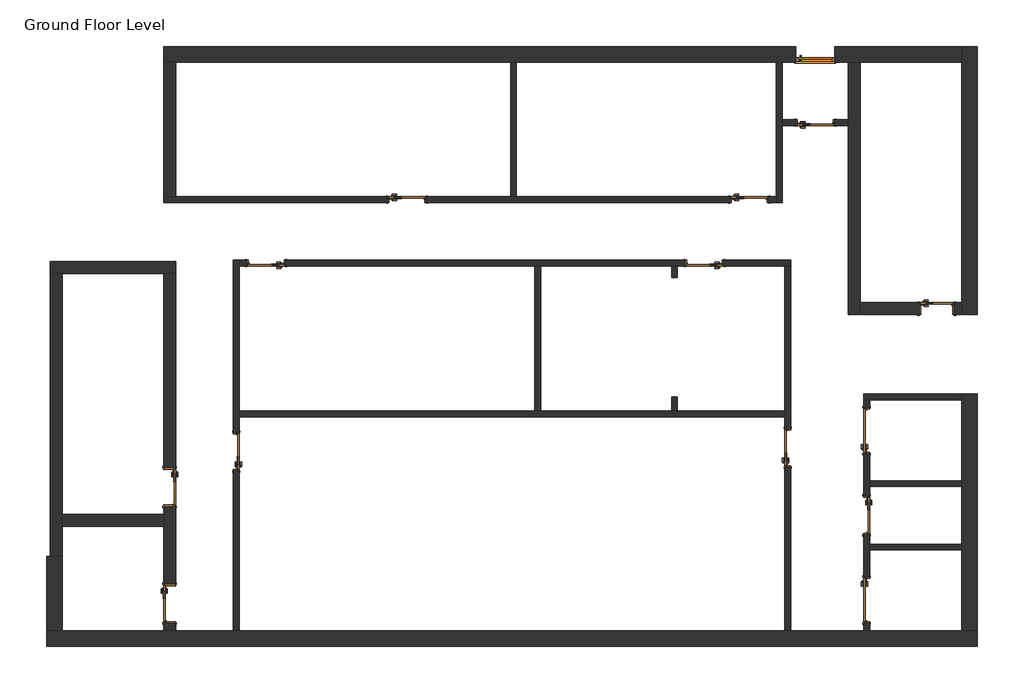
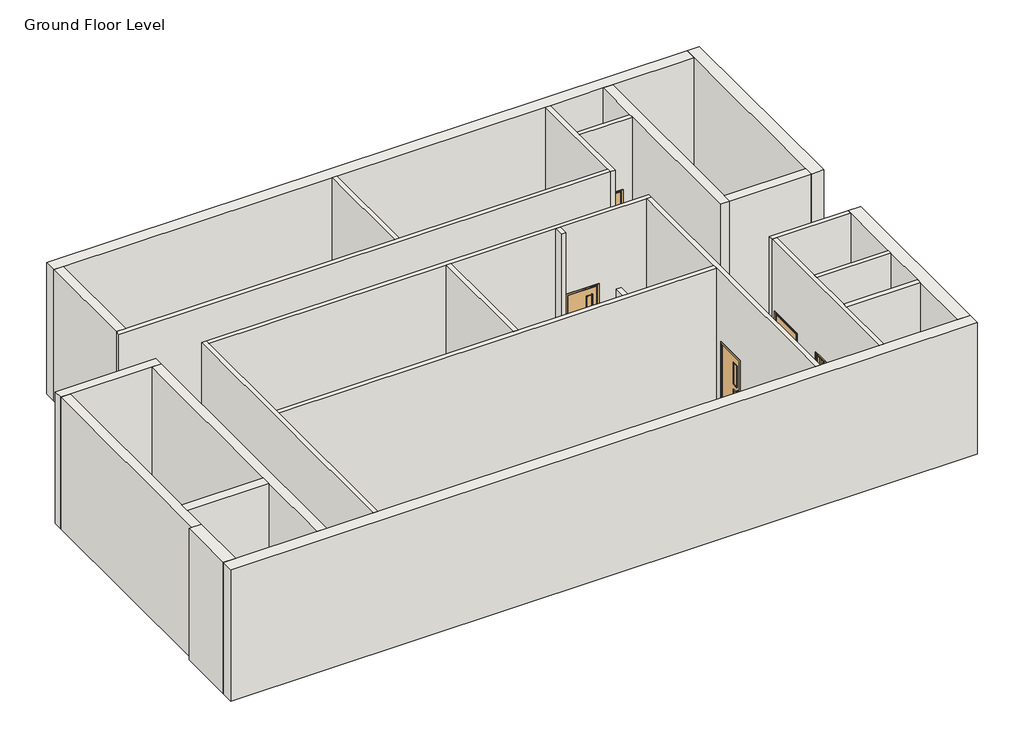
# One storey: 27 walls, 14 doors.
"""IFC4 building model written with IfcOpenShell, lengths in millimetres."""

from ifc_helpers import new_model, si_unit, frame, origin, origin_with_axes, place, context, project, spatial, polyline, outline, extrude, faceted_brep, transform, mapped, element, save
from components import doors_extsgl_flush_1010x2110mm_caf77e55, doors_intsgl_1_1200x2110mm_e831e5cc, doors_intsgl_1_1200x2110mm_07b1b6db, doors_intsgl_3_1010x2110mm_4cc0f6b2, doors_intsgl_3_1010x2110mm_dd9fb0c2, doors_intsgl_3_1010x2110mm_da69ac88, doors_intsgl_3_1010x2110mm_0dcaffd3, doors_intsgl_3_910x2110mm_ed6625c4

model = new_model("IFC4")

# Units and contexts
model_context = context("Model", 3, world=origin())
ifc_project = project(units=[si_unit("LENGTHUNIT", "METRE", prefix="MILLI")], contexts=[model_context])

# Site, building, storey
site = spatial("IfcSite", under=ifc_project)
building = spatial("IfcBuilding", under=site)
storey = spatial("IfcBuildingStorey", under=building, Name="Ground Floor Level", Elevation=0.0)

# Doors
placement = place(None, origin())
doors_extsgl_flush_1010x2110mm_shape = doors_extsgl_flush_1010x2110mm_caf77e55(model_context)
element("IfcDoor", 1, ObjectType="Doors_ExtSgl_Flush : 1010x2110mm", at=placement, inside=storey, context=model_context, shape_type="MappedRepresentation", body=[
    mapped(doors_extsgl_flush_1010x2110mm_shape, transform((444283.079955, -385859.7432771, 0.0), x_axis=(1.0, 0.0, 0.0), y_axis=(0.0, 1.0, 0.0), z_axis=(0.0, 0.0, 1.0))),
])
doors_intsgl_1_1200x2110mm_shape = doors_intsgl_1_1200x2110mm_e831e5cc(model_context)
element("IfcDoor", 2, ObjectType="Doors_IntSgl_1 : 1200x2110mm", at=placement, inside=storey, context=model_context, shape_type="MappedRepresentation", body=[
    mapped(doors_intsgl_1_1200x2110mm_shape, transform((445614.079955, -395638.7432771, 0.0), x_axis=(0.0, 1.0, 0.0), y_axis=(-1.0, 0.0, 0.0), z_axis=(0.0, 0.0, 1.0))),
])
doors_intsgl_1_1200x2110mm_2_shape = doors_intsgl_1_1200x2110mm_07b1b6db(model_context)
element("IfcDoor", 3, ObjectType="Doors_IntSgl_1 : 1200x2110mm", at=placement, inside=storey, context=model_context, shape_type="MappedRepresentation", body=[
    mapped(doors_intsgl_1_1200x2110mm_2_shape, transform((445614.079955, -400038.7432771, 0.0), x_axis=(0.0, -1.0, 0.0), y_axis=(1.0, 0.0, 0.0), z_axis=(0.0, 0.0, 1.0))),
])
doors_intsgl_3_1010x2110mm_shape = doors_intsgl_3_1010x2110mm_4cc0f6b2(model_context)
element("IfcDoor", 4, ObjectType="Doors_IntSgl_3 : 1010x2110mm", at=placement, inside=storey, context=model_context, shape_type="MappedRepresentation", body=[
    mapped(doors_intsgl_3_1010x2110mm_shape, transform((433678.079955, -389634.7432771, 0.0), x_axis=(1.0, 0.0, 0.0), y_axis=(0.0, 1.0, 0.0), z_axis=(0.0, 0.0, 1.0))),
])
element("IfcDoor", 5, ObjectType="Doors_IntSgl_3 : 1010x2110mm", at=placement, inside=storey, context=model_context, shape_type="MappedRepresentation", body=[
    mapped(doors_intsgl_3_1010x2110mm_shape, transform((442568.079955, -389634.7432771, 0.0), x_axis=(1.0, 0.0, 0.0), y_axis=(0.0, 1.0, 0.0), z_axis=(0.0, 0.0, 1.0))),
])
element("IfcDoor", 6, ObjectType="Doors_IntSgl_3 : 1010x2110mm", at=placement, inside=storey, context=model_context, shape_type="MappedRepresentation", body=[
    mapped(doors_intsgl_3_1010x2110mm_shape, transform((441404.079955, -391284.7432771, 0.0), x_axis=(-1.0, 0.0, 0.0), y_axis=(0.0, -1.0, 0.0), z_axis=(0.0, 0.0, 1.0))),
])
element("IfcDoor", 7, ObjectType="Doors_IntSgl_3 : 1010x2110mm", at=placement, inside=storey, context=model_context, shape_type="MappedRepresentation", body=[
    mapped(doors_intsgl_3_1010x2110mm_shape, transform((430028.079955, -391284.7432771, 0.0), x_axis=(-1.0, 0.0, 0.0), y_axis=(0.0, -1.0, 0.0), z_axis=(0.0, 0.0, 1.0))),
])
element("IfcDoor", 8, ObjectType="Doors_IntSgl_3 : 1010x2110mm", at=placement, inside=storey, context=model_context, shape_type="MappedRepresentation", body=[
    mapped(doors_intsgl_3_1010x2110mm_shape, transform((443568.079955, -396083.7432771, 0.0), x_axis=(0.0, 1.0, 0.0), y_axis=(-1.0, 0.0, 0.0), z_axis=(0.0, 0.0, 1.0))),
])
element("IfcDoor", 9, ObjectType="Doors_IntSgl_3 : 1010x2110mm", at=placement, inside=storey, context=model_context, shape_type="MappedRepresentation", body=[
    mapped(doors_intsgl_3_1010x2110mm_shape, transform((445614.079955, -397838.7432771, 0.0), x_axis=(0.0, -1.0, 0.0), y_axis=(1.0, 0.0, 0.0), z_axis=(0.0, 0.0, 1.0))),
])
doors_intsgl_3_1010x2110mm_2_shape = doors_intsgl_3_1010x2110mm_dd9fb0c2(model_context)
element("IfcDoor", 10, ObjectType="Doors_IntSgl_3 : 1010x2110mm", at=placement, inside=storey, context=model_context, shape_type="MappedRepresentation", body=[
    mapped(doors_intsgl_3_1010x2110mm_2_shape, transform((427518.079955, -397104.7432771, 0.0), x_axis=(0.0, -1.0, 0.0), y_axis=(1.0, 0.0, 0.0), z_axis=(0.0, 0.0, 1.0))),
])
doors_intsgl_3_1010x2110mm_3_shape = doors_intsgl_3_1010x2110mm_da69ac88(model_context)
element("IfcDoor", 11, ObjectType="Doors_IntSgl_3 : 1010x2110mm", at=placement, inside=storey, context=model_context, shape_type="MappedRepresentation", body=[
    mapped(doors_intsgl_3_1010x2110mm_3_shape, transform((427518.079955, -400133.7432771, 0.0), x_axis=(0.0, -1.0, 0.0), y_axis=(1.0, 0.0, 0.0), z_axis=(0.0, 0.0, 1.0))),
])
doors_intsgl_3_1010x2110mm_4_shape = doors_intsgl_3_1010x2110mm_0dcaffd3(model_context)
element("IfcDoor", 12, ObjectType="Doors_IntSgl_3 : 1010x2110mm", at=placement, inside=storey, context=model_context, shape_type="MappedRepresentation", body=[
    mapped(doors_intsgl_3_1010x2110mm_4_shape, transform((429248.079955, -396183.7432771, 0.0), x_axis=(0.0, 1.0, 0.0), y_axis=(-1.0, 0.0, 0.0), z_axis=(0.0, 0.0, 1.0))),
])
element("IfcDoor", 13, ObjectType="Doors_IntSgl_3 : 1010x2110mm", at=placement, inside=storey, context=model_context, shape_type="MappedRepresentation", body=[
    mapped(doors_intsgl_3_1010x2110mm_4_shape, transform((444283.079955, -387635.7432771, 0.0), x_axis=(1.0, 0.0, 0.0), y_axis=(0.0, 1.0, 0.0), z_axis=(0.0, 0.0, 1.0))),
])
doors_intsgl_3_910x2110mm_shape = doors_intsgl_3_910x2110mm_ed6625c4(model_context)
element("IfcDoor", 14, ObjectType="Doors_IntSgl_3 : 910x2110mm", at=placement, inside=storey, context=model_context, shape_type="MappedRepresentation", body=[
    mapped(doors_intsgl_3_910x2110mm_shape, transform((447434.079955, -392465.7432771, 0.0), x_axis=(1.0, 0.0, 0.0), y_axis=(0.0, 1.0, 0.0), z_axis=(0.0, 0.0, 1.0))),
])

# Walls
element("IfcWall", 15, ObjectType="Exterior Wall", at=placement, inside=storey, context=model_context, shape_type="Brep", body=[
    faceted_brep([(444788.079955, -386060.7432771, 2110.0), (444788.079955, -386060.7432771, 0.0), (445143.079955, -386060.7432771, 0.0), (445453.079955, -386060.7432771, 0.0), (448089.079955, -386060.7432771, 0.0), (448089.079955, -386060.7432771, 4500.0), (445453.079955, -386060.7432771, 4500.0), (445143.079955, -386060.7432771, 4500.0), (443423.079955, -386060.7432771, 4500.0), (443273.079955, -386060.7432771, 4500.0), (436523.079955, -386060.7432771, 4500.0), (436373.079955, -386060.7432771, 4500.0), (427673.079955, -386060.7432771, 4500.0), (427363.079955, -386060.7432771, 4500.0), (427363.079955, -386060.7432771, 0.0), (427673.079955, -386060.7432771, 0.0), (436373.079955, -386060.7432771, 0.0), (436523.079955, -386060.7432771, 0.0), (443273.079955, -386060.7432771, 0.0), (443423.079955, -386060.7432771, 0.0), (443778.079955, -386060.7432771, 0.0), (443778.079955, -386060.7432771, 2110.0), (448089.079955, -385658.7432771, 0.0), (444788.079955, -385658.7432771, 0.0), (444788.079955, -385658.7432771, 2110.0), (443778.079955, -385658.7432771, 2110.0), (443778.079955, -385658.7432771, 0.0), (427363.079955, -385658.7432771, 0.0), (427363.079955, -385658.7432771, 4500.0), (448089.079955, -385658.7432771, 4500.0)], [[[0, 1, 2, 3, 4, 5, 6, 7, 8, 9, 10, 11, 12, 13, 14, 15, 16, 17, 18, 19, 20, 21]], [[22, 23, 24, 25, 26, 27, 28, 29]], [[20, 19, 18, 17, 16, 15, 14, 27, 26]], [[4, 3, 2, 1, 23, 22]], [[13, 12, 11, 10, 9, 8, 7, 6, 5, 29, 28]], [[5, 4, 22, 29]], [[14, 13, 28, 27]], [[26, 25, 21, 20]], [[24, 23, 1, 0]], [[25, 24, 0, 21]]]),
])
element("IfcWall", 16, ObjectType="Exterior Wall", at=placement, inside=storey, context=model_context, shape_type="Brep", body=[
    faceted_brep([(448089.079955, -385658.7432771, 0.0), (448089.079955, -386060.7432771, 0.0), (448089.079955, -392310.7432771, 0.0), (448089.079955, -392620.7432771, 0.0), (448089.079955, -392620.7432771, 4500.0), (448089.079955, -392310.7432771, 4500.0), (448089.079955, -386060.7432771, 4500.0), (448089.079955, -385658.7432771, 4500.0), (448491.079955, -385658.7432771, 0.0), (448491.079955, -385658.7432771, 4500.0), (448491.079955, -392620.7432771, 4500.0), (448491.079955, -392620.7432771, 0.0)], [[[0, 1, 2, 3, 4, 5, 6, 7]], [[8, 9, 10, 11]], [[3, 2, 1, 0, 8, 11]], [[7, 6, 5, 4, 10, 9]], [[0, 7, 9, 8]], [[4, 3, 11, 10]]]),
])
element("IfcWall", 17, ObjectType="Exterior Wall", at=placement, inside=storey, context=model_context, shape_type="Brep", body=[
    faceted_brep([(448491.079955, -400838.7432771, 0.0), (448089.079955, -400838.7432771, 0.0), (445689.079955, -400838.7432771, 0.0), (445539.079955, -400838.7432771, 0.0), (443643.079955, -400838.7432771, 0.0), (443493.079955, -400838.7432771, 0.0), (429323.079955, -400838.7432771, 0.0), (429173.079955, -400838.7432771, 0.0), (427673.079955, -400838.7432771, 0.0), (427363.079955, -400838.7432771, 0.0), (424727.079955, -400838.7432771, 0.0), (424325.079955, -400838.7432771, 0.0), (424325.079955, -400838.7432771, 4500.0), (424727.079955, -400838.7432771, 4500.0), (427363.079955, -400838.7432771, 4500.0), (427673.079955, -400838.7432771, 4500.0), (429173.079955, -400838.7432771, 4500.0), (429323.079955, -400838.7432771, 4500.0), (443493.079955, -400838.7432771, 4500.0), (443643.079955, -400838.7432771, 4500.0), (445539.079955, -400838.7432771, 4500.0), (445689.079955, -400838.7432771, 4500.0), (448089.079955, -400838.7432771, 4500.0), (448491.079955, -400838.7432771, 4500.0), (448491.079955, -401240.7432771, 0.0), (448491.079955, -401240.7432771, 4500.0), (424325.079955, -401240.7432771, 4500.0), (424325.079955, -401240.7432771, 0.0)], [[[0, 1, 2, 3, 4, 5, 6, 7, 8, 9, 10, 11, 12, 13, 14, 15, 16, 17, 18, 19, 20, 21, 22, 23]], [[24, 25, 26, 27]], [[11, 10, 9, 8, 7, 6, 5, 4, 3, 2, 1, 0, 24, 27]], [[23, 22, 21, 20, 19, 18, 17, 16, 15, 14, 13, 12, 26, 25]], [[12, 11, 27, 26]], [[0, 23, 25, 24]]]),
])
element("IfcWall", 18, ObjectType="Exterior Wall", at=placement, inside=storey, context=model_context, shape_type="Brep", body=[
    faceted_brep([(424727.079955, -400838.7432771, 0.0), (424727.079955, -398905.7432771, 0.0), (424727.079955, -398905.7432771, 4500.0), (424727.079955, -400838.7432771, 4500.0), (424325.079955, -400838.7432771, 0.0), (424325.079955, -400838.7432771, 4500.0), (424325.079955, -398905.7432771, 4500.0), (424325.079955, -398905.7432771, 0.0), (424417.079955, -398905.7432771, 0.0), (424417.079955, -398905.7432771, 4500.0)], [[[0, 1, 2, 3]], [[4, 5, 6, 7]], [[1, 0, 4, 7, 8]], [[2, 1, 8, 7, 6, 9]], [[3, 2, 9, 6, 5]], [[0, 3, 5, 4]]]),
])
element("IfcWall", 19, ObjectType="Exterior Wall", at=placement, inside=storey, context=model_context, shape_type="Brep", body=[
    faceted_brep([(448089.079955, -394688.7432771, 0.0), (448089.079955, -394838.7432771, 0.0), (448089.079955, -396938.7432771, 0.0), (448089.079955, -397088.7432771, 0.0), (448089.079955, -398588.7432771, 0.0), (448089.079955, -398738.7432771, 0.0), (448089.079955, -400838.7432771, 0.0), (448089.079955, -400838.7432771, 4500.0), (448089.079955, -398738.7432771, 4500.0), (448089.079955, -398588.7432771, 4500.0), (448089.079955, -397088.7432771, 4500.0), (448089.079955, -396938.7432771, 4500.0), (448089.079955, -394838.7432771, 4500.0), (448089.079955, -394688.7432771, 4500.0), (448491.079955, -394688.7432771, 0.0), (448491.079955, -394688.7432771, 4500.0), (448491.079955, -400838.7432771, 4500.0), (448491.079955, -400838.7432771, 0.0)], [[[0, 1, 2, 3, 4, 5, 6, 7, 8, 9, 10, 11, 12, 13]], [[14, 15, 16, 17]], [[6, 5, 4, 3, 2, 1, 0, 14, 17]], [[13, 12, 11, 10, 9, 8, 7, 16, 15]], [[7, 6, 17, 16]], [[0, 13, 15, 14]]]),
])
element("IfcWall", 20, ObjectType="Fire Partition Wall", at=placement, inside=storey, context=model_context, shape_type="Brep", body=[
    faceted_brep([(424417.079955, -391559.7432771, 0.0), (424727.079955, -391559.7432771, 0.0), (427363.079955, -391559.7432771, 0.0), (427673.079955, -391559.7432771, 0.0), (427673.079955, -391559.7432771, 4500.0), (427363.079955, -391559.7432771, 4500.0), (424727.079955, -391559.7432771, 4500.0), (424417.079955, -391559.7432771, 4500.0), (424417.079955, -391249.7432771, 0.0), (424417.079955, -391249.7432771, 4500.0), (427673.079955, -391249.7432771, 4500.0), (427673.079955, -391249.7432771, 0.0)], [[[0, 1, 2, 3, 4, 5, 6, 7]], [[8, 9, 10, 11]], [[3, 2, 1, 0, 8, 11]], [[7, 6, 5, 4, 10, 9]], [[0, 7, 9, 8]], [[4, 3, 11, 10]]]),
])
element("IfcWall", 21, ObjectType="Fire Partition Wall", at=placement, inside=storey, context=model_context, shape_type="Brep", body=[
    faceted_brep([(424727.079955, -398905.7432771, 0.0), (424727.079955, -398119.7432771, 0.0), (424727.079955, -397809.7432771, 0.0), (424727.079955, -391559.7432771, 0.0), (424727.079955, -391559.7432771, 4500.0), (424727.079955, -397809.7432771, 4500.0), (424727.079955, -398119.7432771, 4500.0), (424727.079955, -398905.7432771, 4500.0), (424417.079955, -398905.7432771, 0.0), (424417.079955, -398905.7432771, 4500.0), (424417.079955, -391559.7432771, 4500.0), (424417.079955, -391559.7432771, 0.0)], [[[0, 1, 2, 3, 4, 5, 6, 7]], [[8, 9, 10, 11]], [[3, 2, 1, 0, 8, 11]], [[7, 6, 5, 4, 10, 9]], [[0, 7, 9, 8]], [[4, 3, 11, 10]]]),
])
element("IfcWall", 22, ObjectType="Fire Partition Wall", at=placement, inside=storey, context=model_context, shape_type="Brep", body=[
    faceted_brep([(427363.079955, -400838.7432771, 4500.0), (427363.079955, -398119.7432771, 4500.0), (427363.079955, -397809.7432771, 4500.0), (427363.079955, -391559.7432771, 4500.0), (427363.079955, -391559.7432771, 0.0), (427363.079955, -396599.7432771, 0.0), (427363.079955, -396599.7432771, 2110.0), (427363.079955, -397609.7432771, 2110.0), (427363.079955, -397609.7432771, 0.0), (427363.079955, -397809.7432771, 0.0), (427363.079955, -398119.7432771, 0.0), (427363.079955, -399628.7432771, 0.0), (427363.079955, -399628.7432771, 2110.0), (427363.079955, -400638.7432771, 2110.0), (427363.079955, -400638.7432771, 0.0), (427363.079955, -400838.7432771, 0.0), (427673.079955, -391559.7432771, 4500.0), (427673.079955, -400838.7432771, 4500.0), (427673.079955, -400838.7432771, 0.0), (427673.079955, -400638.7432771, 0.0), (427673.079955, -400638.7432771, 2110.0), (427673.079955, -399628.7432771, 2110.0), (427673.079955, -399628.7432771, 0.0), (427673.079955, -397609.7432771, 0.0), (427673.079955, -397609.7432771, 2110.0), (427673.079955, -396599.7432771, 2110.0), (427673.079955, -396599.7432771, 0.0), (427673.079955, -391559.7432771, 0.0)], [[[0, 1, 2, 3, 4, 5, 6, 7, 8, 9, 10, 11, 12, 13, 14, 15]], [[16, 17, 18, 19, 20, 21, 22, 23, 24, 25, 26, 27]], [[4, 27, 26, 5]], [[18, 15, 14, 19]], [[8, 23, 22, 11, 10, 9]], [[3, 2, 1, 0, 17, 16]], [[4, 3, 16, 27]], [[0, 15, 18, 17]], [[7, 24, 23, 8]], [[24, 7, 6, 25]], [[25, 6, 5, 26]], [[13, 20, 19, 14]], [[20, 13, 12, 21]], [[21, 12, 11, 22]]]),
])
element("IfcWall", 23, ObjectType="Fire Partition Wall", at=placement, inside=storey, context=model_context, shape_type="SweptSolid", body=[
    extrude(outline(polyline([(427673.079955, -386060.7432771), (427673.079955, -389559.7432771), (427363.079955, -389559.7432771), (427363.079955, -386060.7432771), (427673.079955, -386060.7432771)])), origin_with_axes(), (0.0, 0.0, 1.0), 4500.0),
])
element("IfcWall", 24, ObjectType="Fire Partition Wall", at=placement, inside=storey, context=model_context, shape_type="Brep", body=[
    faceted_brep([(445453.079955, -392620.7432771, 0.0), (445453.079955, -392310.7432771, 0.0), (445453.079955, -386060.7432771, 0.0), (445453.079955, -386060.7432771, 4500.0), (445453.079955, -392310.7432771, 4500.0), (445453.079955, -392620.7432771, 4500.0), (445143.079955, -392620.7432771, 0.0), (445143.079955, -392620.7432771, 4500.0), (445143.079955, -387710.7432771, 4500.0), (445143.079955, -387560.7432771, 4500.0), (445143.079955, -386060.7432771, 4500.0), (445143.079955, -386060.7432771, 0.0), (445143.079955, -387560.7432771, 0.0), (445143.079955, -387710.7432771, 0.0)], [[[0, 1, 2, 3, 4, 5]], [[6, 7, 8, 9, 10, 11, 12, 13]], [[2, 1, 0, 6, 13, 12, 11]], [[5, 4, 3, 10, 9, 8, 7]], [[0, 5, 7, 6]], [[3, 2, 11, 10]]]),
])
element("IfcWall", 25, ObjectType="Fire Partition Wall", at=placement, inside=storey, context=model_context, shape_type="SweptSolid", body=[
    extrude(outline(polyline([(4500.0, 448089.079955), (4500.0, 445453.079955), (0.0, 445453.079955), (0.0, 446979.079955), (2110.0, 446979.079955), (2110.0, 447889.079955), (0.0, 447889.079955), (0.0, 448089.079955), (4500.0, 448089.079955)])), frame((0.0, -392620.7432771, 0.0), z_axis=(0.0, 1.0, 0.0), x_axis=(0.0, 0.0, 1.0)), (0.0, 0.0, 1.0), 310.0),
])
element("IfcWall", 26, ObjectType="Fire Partition Wall", at=placement, inside=storey, context=model_context, shape_type="SweptSolid", body=[
    extrude(outline(polyline([(427363.079955, -398119.7432771), (424727.079955, -398119.7432771), (424727.079955, -397809.7432771), (427363.079955, -397809.7432771), (427363.079955, -398119.7432771)])), origin_with_axes(), (0.0, 0.0, 1.0), 4500.0),
])
element("IfcWall", 27, ObjectType="Interior Wall", at=placement, inside=storey, context=model_context, shape_type="Brep", body=[
    faceted_brep([(427363.079955, -389559.7432771, 4500.0), (427673.079955, -389559.7432771, 4500.0), (436373.079955, -389559.7432771, 4500.0), (436523.079955, -389559.7432771, 4500.0), (443273.079955, -389559.7432771, 4500.0), (443273.079955, -389559.7432771, 0.0), (443073.079955, -389559.7432771, 0.0), (443073.079955, -389559.7432771, 2110.0), (442063.079955, -389559.7432771, 2110.0), (442063.079955, -389559.7432771, 0.0), (436523.079955, -389559.7432771, 0.0), (436373.079955, -389559.7432771, 0.0), (434183.079955, -389559.7432771, 0.0), (434183.079955, -389559.7432771, 2110.0), (433173.079955, -389559.7432771, 2110.0), (433173.079955, -389559.7432771, 0.0), (427673.079955, -389559.7432771, 0.0), (427363.079955, -389559.7432771, 0.0), (443273.079955, -389709.7432771, 4500.0), (427363.079955, -389709.7432771, 4500.0), (427363.079955, -389709.7432771, 0.0), (433173.079955, -389709.7432771, 0.0), (433173.079955, -389709.7432771, 2110.0), (434183.079955, -389709.7432771, 2110.0), (434183.079955, -389709.7432771, 0.0), (442063.079955, -389709.7432771, 0.0), (442063.079955, -389709.7432771, 2110.0), (443073.079955, -389709.7432771, 2110.0), (443073.079955, -389709.7432771, 0.0), (443273.079955, -389709.7432771, 0.0)], [[[0, 1, 2, 3, 4, 5, 6, 7, 8, 9, 10, 11, 12, 13, 14, 15, 16, 17]], [[18, 19, 20, 21, 22, 23, 24, 25, 26, 27, 28, 29]], [[5, 29, 28, 6]], [[20, 17, 16, 15, 21]], [[24, 12, 11, 10, 9, 25]], [[4, 3, 2, 1, 0, 19, 18]], [[5, 4, 18, 29]], [[0, 17, 20, 19]], [[23, 13, 12, 24]], [[13, 23, 22, 14]], [[14, 22, 21, 15]], [[27, 7, 6, 28]], [[7, 27, 26, 8]], [[8, 26, 25, 9]]]),
])
element("IfcWall", 28, ObjectType="Interior Wall", at=placement, inside=storey, context=model_context, shape_type="SweptSolid", body=[
    extrude(outline(polyline([(436523.079955, -386060.7432771), (436523.079955, -389559.7432771), (436373.079955, -389559.7432771), (436373.079955, -386060.7432771), (436523.079955, -386060.7432771)])), origin_with_axes(), (0.0, 0.0, 1.0), 4500.0),
])
element("IfcWall", 29, ObjectType="Interior Wall", at=placement, inside=storey, context=model_context, shape_type="Brep", body=[
    faceted_brep([(443423.079955, -389709.7432771, 0.0), (443423.079955, -387710.7432771, 0.0), (443423.079955, -387560.7432771, 0.0), (443423.079955, -386060.7432771, 0.0), (443423.079955, -386060.7432771, 4500.0), (443423.079955, -387560.7432771, 4500.0), (443423.079955, -387710.7432771, 4500.0), (443423.079955, -389709.7432771, 4500.0), (443273.079955, -389709.7432771, 0.0), (443273.079955, -389709.7432771, 4500.0), (443273.079955, -389559.7432771, 4500.0), (443273.079955, -386060.7432771, 4500.0), (443273.079955, -386060.7432771, 0.0), (443273.079955, -389559.7432771, 0.0)], [[[0, 1, 2, 3, 4, 5, 6, 7]], [[8, 9, 10, 11, 12, 13]], [[3, 2, 1, 0, 8, 13, 12]], [[7, 6, 5, 4, 11, 10, 9]], [[4, 3, 12, 11]], [[0, 7, 9, 8]]]),
])
element("IfcWall", 30, ObjectType="Interior Wall", at=placement, inside=storey, context=model_context, shape_type="SweptSolid", body=[
    extrude(outline(polyline([(4500.0, 445143.079955), (4500.0, 443423.079955), (0.0, 443423.079955), (0.0, 443778.079955), (2110.0, 443778.079955), (2110.0, 444788.079955), (0.0, 444788.079955), (0.0, 445143.079955), (4500.0, 445143.079955)])), frame((0.0, -387710.7432771, 0.0), z_axis=(0.0, 1.0, 0.0), x_axis=(0.0, 0.0, 1.0)), (0.0, 0.0, 1.0), 150.0),
])
element("IfcWall", 31, ObjectType="Interior Wall", at=placement, inside=storey, context=model_context, shape_type="Brep", body=[
    faceted_brep([(443643.079955, -391359.7432771, 4500.0), (443493.079955, -391359.7432771, 4500.0), (440699.079955, -391359.7432771, 4500.0), (440549.079955, -391359.7432771, 4500.0), (437153.6355106, -391359.7432771, 4500.0), (437003.6355106, -391359.7432771, 4500.0), (429323.079955, -391359.7432771, 4500.0), (429323.079955, -391359.7432771, 0.0), (429523.079955, -391359.7432771, 0.0), (429523.079955, -391359.7432771, 2110.0), (430533.079955, -391359.7432771, 2110.0), (430533.079955, -391359.7432771, 0.0), (437003.6355106, -391359.7432771, 0.0), (437153.6355106, -391359.7432771, 0.0), (440549.079955, -391359.7432771, 0.0), (440699.079955, -391359.7432771, 0.0), (440899.079955, -391359.7432771, 0.0), (440899.079955, -391359.7432771, 2110.0), (441909.079955, -391359.7432771, 2110.0), (441909.079955, -391359.7432771, 0.0), (443493.079955, -391359.7432771, 0.0), (443643.079955, -391359.7432771, 0.0), (429323.079955, -391209.7432771, 4500.0), (443643.079955, -391209.7432771, 4500.0), (443643.079955, -391209.7432771, 0.0), (441909.079955, -391209.7432771, 0.0), (441909.079955, -391209.7432771, 2110.0), (440899.079955, -391209.7432771, 2110.0), (440899.079955, -391209.7432771, 0.0), (430533.079955, -391209.7432771, 0.0), (430533.079955, -391209.7432771, 2110.0), (429523.079955, -391209.7432771, 2110.0), (429523.079955, -391209.7432771, 0.0), (429323.079955, -391209.7432771, 0.0)], [[[0, 1, 2, 3, 4, 5, 6, 7, 8, 9, 10, 11, 12, 13, 14, 15, 16, 17, 18, 19, 20, 21]], [[22, 23, 24, 25, 26, 27, 28, 29, 30, 31, 32, 33]], [[24, 21, 20, 19, 25]], [[7, 33, 32, 8]], [[28, 16, 15, 14, 13, 12, 11, 29]], [[6, 5, 4, 3, 2, 1, 0, 23, 22]], [[0, 21, 24, 23]], [[7, 6, 22, 33]], [[27, 17, 16, 28]], [[17, 27, 26, 18]], [[18, 26, 25, 19]], [[31, 9, 8, 32]], [[9, 31, 30, 10]], [[10, 30, 29, 11]]]),
])
element("IfcWall", 32, ObjectType="Interior Wall", at=placement, inside=storey, context=model_context, shape_type="Brep", body=[
    faceted_brep([(443493.079955, -400838.7432771, 4500.0), (443493.079955, -395278.7432771, 4500.0), (443493.079955, -395128.7432771, 4500.0), (443493.079955, -391359.7432771, 4500.0), (443493.079955, -391359.7432771, 0.0), (443493.079955, -395128.7432771, 0.0), (443493.079955, -395278.7432771, 0.0), (443493.079955, -395578.7432771, 0.0), (443493.079955, -395578.7432771, 2110.0), (443493.079955, -396588.7432771, 2110.0), (443493.079955, -396588.7432771, 0.0), (443493.079955, -400838.7432771, 0.0), (443643.079955, -391359.7432771, 4500.0), (443643.079955, -400838.7432771, 4500.0), (443643.079955, -400838.7432771, 0.0), (443643.079955, -396588.7432771, 0.0), (443643.079955, -396588.7432771, 2110.0), (443643.079955, -395578.7432771, 2110.0), (443643.079955, -395578.7432771, 0.0), (443643.079955, -391359.7432771, 0.0)], [[[0, 1, 2, 3, 4, 5, 6, 7, 8, 9, 10, 11]], [[12, 13, 14, 15, 16, 17, 18, 19]], [[4, 19, 18, 7, 6, 5]], [[14, 11, 10, 15]], [[3, 2, 1, 0, 13, 12]], [[4, 3, 12, 19]], [[0, 11, 14, 13]], [[17, 8, 7, 18]], [[8, 17, 16, 9]], [[9, 16, 15, 10]]]),
])
element("IfcWall", 33, ObjectType="Interior Wall", at=placement, inside=storey, context=model_context, shape_type="Brep", body=[
    faceted_brep([(429323.079955, -391209.7432771, 4500.0), (429323.079955, -391359.7432771, 4500.0), (429323.079955, -395128.7432771, 4500.0), (429323.079955, -395278.7432771, 4500.0), (429323.079955, -400838.7432771, 4500.0), (429323.079955, -400838.7432771, 0.0), (429323.079955, -396688.7432771, 0.0), (429323.079955, -396688.7432771, 2110.0), (429323.079955, -395678.7432771, 2110.0), (429323.079955, -395678.7432771, 0.0), (429323.079955, -395278.7432771, 0.0), (429323.079955, -395128.7432771, 0.0), (429323.079955, -391359.7432771, 0.0), (429323.079955, -391209.7432771, 0.0), (429173.079955, -400838.7432771, 4500.0), (429173.079955, -391209.7432771, 4500.0), (429173.079955, -391209.7432771, 0.0), (429173.079955, -395678.7432771, 0.0), (429173.079955, -395678.7432771, 2110.0), (429173.079955, -396688.7432771, 2110.0), (429173.079955, -396688.7432771, 0.0), (429173.079955, -400838.7432771, 0.0)], [[[0, 1, 2, 3, 4, 5, 6, 7, 8, 9, 10, 11, 12, 13]], [[14, 15, 16, 17, 18, 19, 20, 21]], [[5, 21, 20, 6]], [[16, 13, 12, 11, 10, 9, 17]], [[4, 3, 2, 1, 0, 15, 14]], [[5, 4, 14, 21]], [[0, 13, 16, 15]], [[8, 18, 17, 9]], [[18, 8, 7, 19]], [[19, 7, 6, 20]]]),
])
element("IfcWall", 34, ObjectType="Interior Wall", at=placement, inside=storey, context=model_context, shape_type="Brep", body=[
    faceted_brep([(429323.079955, -395278.7432771, 0.0), (443493.079955, -395278.7432771, 0.0), (443493.079955, -395278.7432771, 4500.0), (429323.079955, -395278.7432771, 4500.0), (429323.079955, -395128.7432771, 0.0), (429323.079955, -395128.7432771, 4500.0), (437003.6355106, -395128.7432771, 4500.0), (437153.6355106, -395128.7432771, 4500.0), (440549.079955, -395128.7432771, 4500.0), (440699.079955, -395128.7432771, 4500.0), (443493.079955, -395128.7432771, 4500.0), (443493.079955, -395128.7432771, 0.0), (440699.079955, -395128.7432771, 0.0), (440549.079955, -395128.7432771, 0.0), (437153.6355106, -395128.7432771, 0.0), (437003.6355106, -395128.7432771, 0.0)], [[[0, 1, 2, 3]], [[4, 5, 6, 7, 8, 9, 10, 11, 12, 13, 14, 15]], [[1, 0, 4, 15, 14, 13, 12, 11]], [[3, 2, 10, 9, 8, 7, 6, 5]], [[0, 3, 5, 4]], [[2, 1, 11, 10]]]),
])
element("IfcWall", 35, ObjectType="Interior Wall", at=placement, inside=storey, context=model_context, shape_type="SweptSolid", body=[
    extrude(outline(polyline([(437153.6355106, -391359.7432771), (437153.6355106, -395128.7432771), (437003.6355106, -395128.7432771), (437003.6355106, -391359.7432771), (437153.6355106, -391359.7432771)])), origin_with_axes(), (0.0, 0.0, 1.0), 4500.0),
])
element("IfcWall", 36, ObjectType="Interior Wall", at=placement, inside=storey, context=model_context, shape_type="SweptSolid", body=[
    extrude(outline(polyline([(440549.079955, -395128.7432771), (440549.079955, -394759.7432771), (440699.079955, -394759.7432771), (440699.079955, -395128.7432771), (440549.079955, -395128.7432771)])), origin_with_axes(), (0.0, 0.0, 1.0), 4500.0),
])
element("IfcWall", 37, ObjectType="Interior Wall", at=placement, inside=storey, context=model_context, shape_type="SweptSolid", body=[
    extrude(outline(polyline([(440549.079955, -391659.7432771), (440549.079955, -391359.7432771), (440699.079955, -391359.7432771), (440699.079955, -391659.7432771), (440549.079955, -391659.7432771)])), origin_with_axes(), (0.0, 0.0, 1.0), 4500.0),
])
element("IfcWall", 38, ObjectType="Interior Wall", at=placement, inside=storey, context=model_context, shape_type="Brep", body=[
    faceted_brep([(448089.079955, -394688.7432771, 0.0), (445539.079955, -394688.7432771, 0.0), (445539.079955, -394688.7432771, 4500.0), (448089.079955, -394688.7432771, 4500.0), (448089.079955, -394838.7432771, 0.0), (448089.079955, -394838.7432771, 4500.0), (445689.079955, -394838.7432771, 4500.0), (445539.079955, -394838.7432771, 4500.0), (445539.079955, -394838.7432771, 0.0), (445689.079955, -394838.7432771, 0.0)], [[[0, 1, 2, 3]], [[4, 5, 6, 7, 8, 9]], [[1, 0, 4, 9, 8]], [[3, 2, 7, 6, 5]], [[0, 3, 5, 4]], [[2, 1, 8, 7]]]),
])
element("IfcWall", 39, ObjectType="Interior Wall", at=placement, inside=storey, context=model_context, shape_type="SweptSolid", body=[
    extrude(outline(polyline([(448089.079955, -397088.7432771), (445689.079955, -397088.7432771), (445689.079955, -396938.7432771), (448089.079955, -396938.7432771), (448089.079955, -397088.7432771)])), origin_with_axes(), (0.0, 0.0, 1.0), 4500.0),
])
element("IfcWall", 40, ObjectType="Interior Wall", at=placement, inside=storey, context=model_context, shape_type="SweptSolid", body=[
    extrude(outline(polyline([(448089.079955, -398738.7432771), (445689.079955, -398738.7432771), (445689.079955, -398588.7432771), (448089.079955, -398588.7432771), (448089.079955, -398738.7432771)])), origin_with_axes(), (0.0, 0.0, 1.0), 4500.0),
])
element("IfcWall", 41, ObjectType="Interior Wall", at=placement, inside=storey, context=model_context, shape_type="Brep", body=[
    faceted_brep([(445689.079955, -394838.7432771, 4500.0), (445689.079955, -396938.7432771, 4500.0), (445689.079955, -397088.7432771, 4500.0), (445689.079955, -398588.7432771, 4500.0), (445689.079955, -398738.7432771, 4500.0), (445689.079955, -400838.7432771, 4500.0), (445689.079955, -400838.7432771, 0.0), (445689.079955, -400638.7432771, 0.0), (445689.079955, -400638.7432771, 2110.0), (445689.079955, -399438.7432771, 2110.0), (445689.079955, -399438.7432771, 0.0), (445689.079955, -398738.7432771, 0.0), (445689.079955, -398588.7432771, 0.0), (445689.079955, -398343.7432771, 0.0), (445689.079955, -398343.7432771, 2110.0), (445689.079955, -397333.7432771, 2110.0), (445689.079955, -397333.7432771, 0.0), (445689.079955, -397088.7432771, 0.0), (445689.079955, -396938.7432771, 0.0), (445689.079955, -396238.7432771, 0.0), (445689.079955, -396238.7432771, 2110.0), (445689.079955, -395038.7432771, 2110.0), (445689.079955, -395038.7432771, 0.0), (445689.079955, -394838.7432771, 0.0), (445539.079955, -400838.7432771, 4500.0), (445539.079955, -394838.7432771, 4500.0), (445539.079955, -394838.7432771, 0.0), (445539.079955, -395038.7432771, 0.0), (445539.079955, -395038.7432771, 2110.0), (445539.079955, -396238.7432771, 2110.0), (445539.079955, -396238.7432771, 0.0), (445539.079955, -397333.7432771, 0.0), (445539.079955, -397333.7432771, 2110.0), (445539.079955, -398343.7432771, 2110.0), (445539.079955, -398343.7432771, 0.0), (445539.079955, -399438.7432771, 0.0), (445539.079955, -399438.7432771, 2110.0), (445539.079955, -400638.7432771, 2110.0), (445539.079955, -400638.7432771, 0.0), (445539.079955, -400838.7432771, 0.0)], [[[0, 1, 2, 3, 4, 5, 6, 7, 8, 9, 10, 11, 12, 13, 14, 15, 16, 17, 18, 19, 20, 21, 22, 23]], [[24, 25, 26, 27, 28, 29, 30, 31, 32, 33, 34, 35, 36, 37, 38, 39]], [[26, 23, 22, 27]], [[6, 39, 38, 7]], [[30, 19, 18, 17, 16, 31]], [[10, 35, 34, 13, 12, 11]], [[5, 4, 3, 2, 1, 0, 25, 24]], [[0, 23, 26, 25]], [[6, 5, 24, 39]], [[21, 28, 27, 22]], [[28, 21, 20, 29]], [[29, 20, 19, 30]], [[37, 8, 7, 38]], [[8, 37, 36, 9]], [[9, 36, 35, 10]], [[33, 14, 13, 34]], [[14, 33, 32, 15]], [[15, 32, 31, 16]]]),
])

save(model, "model.ifc")
